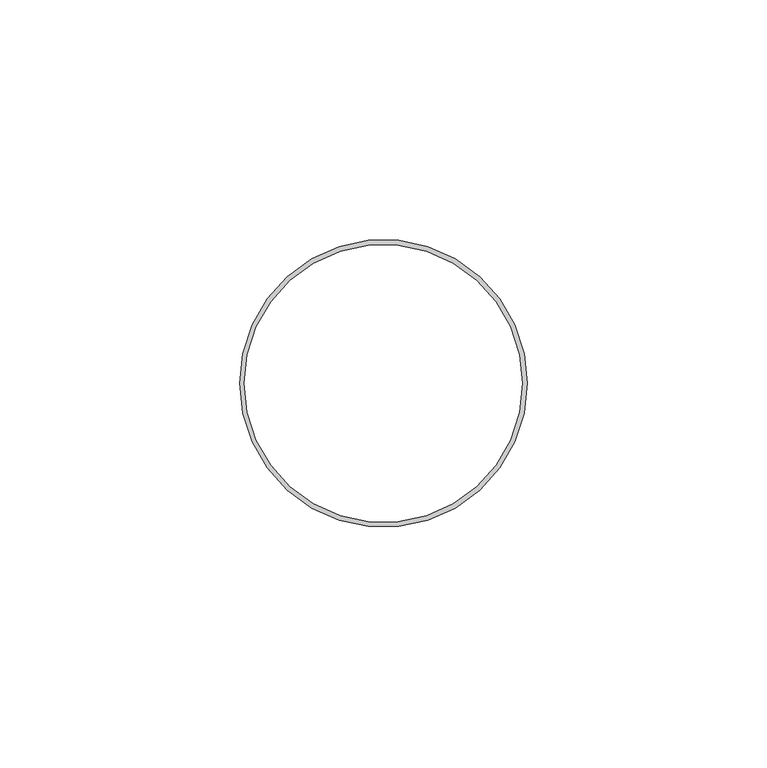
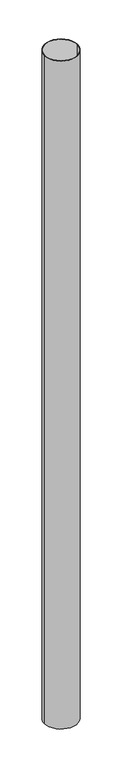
"""IFC4 building model written with IfcOpenShell, lengths in millimetres: proxy geometry, ▲GM_Труба : Тэ060_мм."""

from ifc_helpers import new_model, si_unit, point, frame, origin, origin_2d, place, context, project, spatial, circle_curve, trimmed, segment, composite_curve, outline, extrude, source, transform, mapped, element, save


def generic_models_7e42b7d0(model_context):
    return source(origin(), model_context, "Body", "SweptSolid", [
        extrude(outline(composite_curve([segment(trimmed(circle_curve(origin_2d(), 30.0), [point((-30.0, 0.0))], [point((30.0, 0.0))], False, "CARTESIAN"), True, "CONTINUOUS"), segment(trimmed(circle_curve(origin_2d(), 30.0), [point((30.0, 0.0))], [point((-30.0, 0.0))], False, "CARTESIAN"), True, "CONTINUOUS")], self_intersect=False), holes=[composite_curve([segment(trimmed(circle_curve(origin_2d(), 29.0), [point((-29.0, 0.0))], [point((29.0, 0.0))], True, "CARTESIAN"), True, "CONTINUOUS"), segment(trimmed(circle_curve(origin_2d(), 29.0), [point((29.0, 0.0))], [point((-29.0, 0.0))], True, "CARTESIAN"), True, "CONTINUOUS")], self_intersect=False)]), frame((0.0, 0.0, -1200.0), z_axis=(0.0, 0.0, 1.0), x_axis=(1.0, 0.0, 0.0)), (0.0, 0.0, 1.0), 1270.0),
    ])


if __name__ == "__main__":
    model = new_model("IFC4")
    model_context = context("Model", 3, world=origin())
    ifc_project = project(units=[si_unit("LENGTHUNIT", "METRE", prefix="MILLI")], contexts=[model_context])
    site = spatial("IfcSite", under=ifc_project)
    building = spatial("IfcBuilding", under=site)
    placement = place(None, origin())
    generic_models_shape = generic_models_7e42b7d0(model_context)
    element("IfcBuildingElementProxy", 1, Name="▲GM_Труба : Тэ060_мм", ObjectType="▲GM_Труба : Тэ060_мм", at=placement, inside=building, context=model_context, shape_type="MappedRepresentation", body=[
        mapped(generic_models_shape, transform((0.0, 0.0, 0.0), x_axis=(1.0, 0.0, 0.0), y_axis=(0.0, 1.0, 0.0), z_axis=(0.0, 0.0, 1.0))),
    ])
    save(model, "model.ifc")
